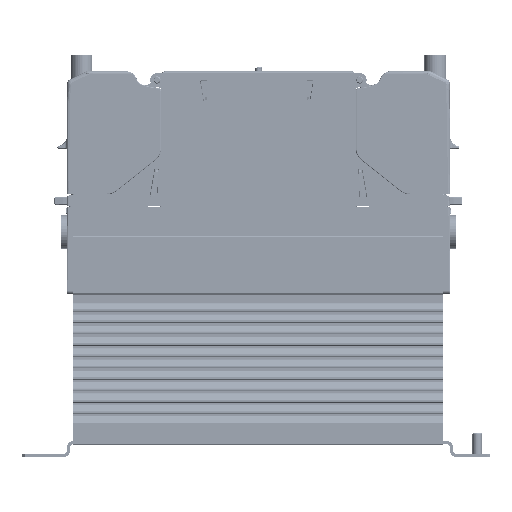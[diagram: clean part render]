
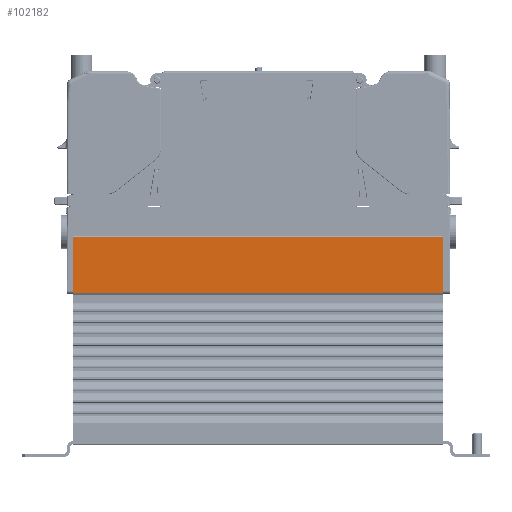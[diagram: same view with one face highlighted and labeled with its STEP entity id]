
A CAD part, left-side view. The second image highlights one B-rep face of the part: STEP entity #102182.
In plain terms, the highlighted planar face has unit normal (-1, 0, 0).
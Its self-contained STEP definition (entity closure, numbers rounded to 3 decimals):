
#10036=DIRECTION('',(0.,-1.,0.));
#10037=VECTOR('',#10036,230.);
#10038=CARTESIAN_POINT('',(-120.,115.,0.8));
#10039=LINE('',#10038,#10037);
#10040=DIRECTION('',(0.,0.,1.));
#10041=VECTOR('',#10040,34.4);
#10042=CARTESIAN_POINT('',(-120.,-115.,0.8));
#10043=LINE('',#10042,#10041);
#10044=DIRECTION('',(0.,0.,-1.));
#10045=VECTOR('',#10044,34.4);
#10046=CARTESIAN_POINT('',(-120.,115.,35.2));
#10047=LINE('',#10046,#10045);
#10052=DIRECTION('',(0.,1.,0.));
#10053=VECTOR('',#10052,230.);
#10054=CARTESIAN_POINT('',(-120.,-115.,35.2));
#10055=LINE('',#10054,#10053);
#76670=CARTESIAN_POINT('',(-120.,-115.,35.2));
#76671=VERTEX_POINT('',#76670);
#76672=CARTESIAN_POINT('',(-120.,-115.,0.8));
#76673=VERTEX_POINT('',#76672);
#77554=CARTESIAN_POINT('',(-120.,115.,35.2));
#77555=VERTEX_POINT('',#77554);
#77556=CARTESIAN_POINT('',(-120.,115.,0.8));
#77557=VERTEX_POINT('',#77556);
#102170=CARTESIAN_POINT('',(-120.,0.,18.));
#102171=DIRECTION('',(1.,0.,0.));
#102172=DIRECTION('',(0.,0.,1.));
#102173=AXIS2_PLACEMENT_3D('',#102170,#102171,#102172);
#102174=PLANE('',#102173);
#102175=ORIENTED_EDGE('',*,*,#94527,.F.);
#102176=ORIENTED_EDGE('',*,*,#102165,.F.);
#102177=ORIENTED_EDGE('',*,*,#93768,.F.);
#102179=ORIENTED_EDGE('',*,*,#102178,.F.);
#102180=EDGE_LOOP('',(#102175,#102176,#102177,#102179));
#102181=FACE_OUTER_BOUND('',#102180,.F.);
#93768=EDGE_CURVE('',#77555,#77557,#10047,.T.);
#94527=EDGE_CURVE('',#76673,#76671,#10043,.T.);
#102165=EDGE_CURVE('',#77557,#76673,#10039,.T.);
#102178=EDGE_CURVE('',#76671,#77555,#10055,.T.);
#102182=ADVANCED_FACE('',(#102181),#102174,.F.);
